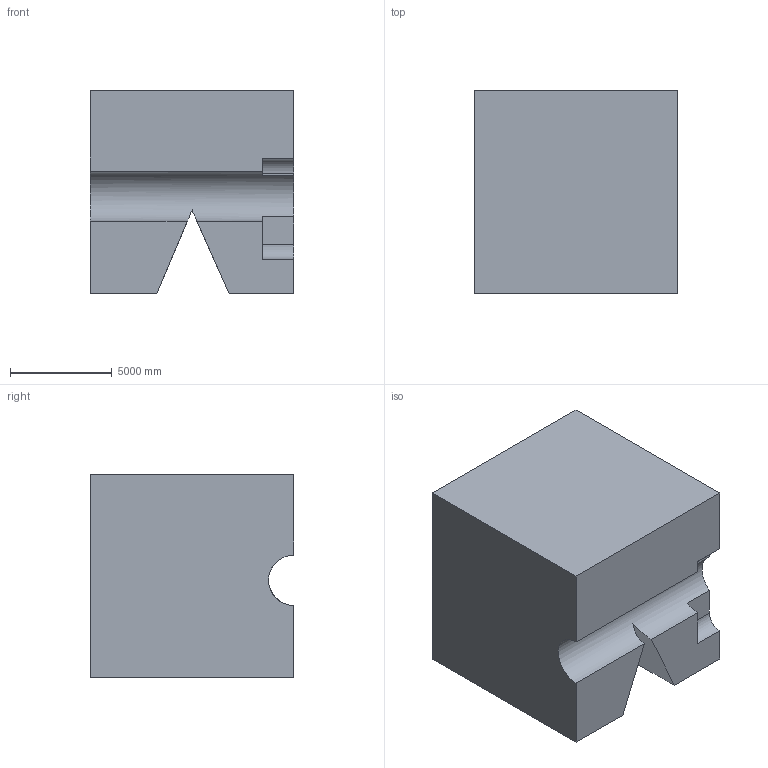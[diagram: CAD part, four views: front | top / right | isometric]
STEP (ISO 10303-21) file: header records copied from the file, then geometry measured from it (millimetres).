
FILE_DESCRIPTION (( 'STEP AP203' ), '1' );
FILE_NAME ('264.STEP', '2022-07-28T14:08:44', ( 'user' ), ( '' ), 'SwSTEP 2.0', 'SolidWorks 2021', '' );
FILE_SCHEMA (( 'CONFIG_CONTROL_DESIGN' ));
Length unit declared in the file: centimetre
Products named in the file (1): 264
Bounding box: 10000 x 10000 x 10000 mm (x, y, z)
Volume: 900342571242.5 mm3; surface area: 647302562.5 mm2
Topology: 1 solids, 1 shells, 18 faces, 48 edges, 32 vertices
Faces by surface type: plane 15, cylinder 3
Entity records: 637 total; most frequent: CARTESIAN_POINT 105, ORIENTED_EDGE 96, DIRECTION 92, EDGE_CURVE 48, LINE 38, VECTOR 38, VERTEX_POINT 32, AXIS2_PLACEMENT_3D 27
